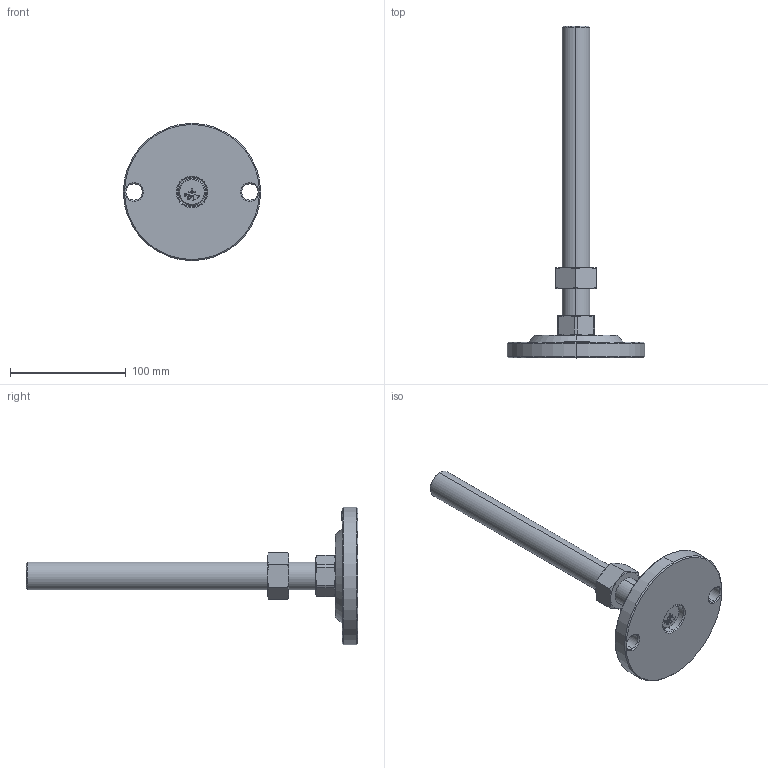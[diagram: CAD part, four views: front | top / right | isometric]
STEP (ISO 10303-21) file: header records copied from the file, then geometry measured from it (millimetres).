
FILE_DESCRIPTION (( 'STEP AP203' ), '1' );
FILE_NAME ('KL-120-24250-P.STEP', '2020-09-10T02:39:07', ( '' ), ( '' ), 'SwSTEP 2.0', 'SolidWorks 2016', '' );
FILE_SCHEMA (( 'CONFIG_CONTROL_DESIGN' ));
Length unit declared in the file: millimetre
Products named in the file (5): KL-120-24250-P; 眻芛蹟邡M24炵蹈_M24X250; 螺丝平底十字带商标M10系列_M10X14; KL-120-0.1 KL120菁釱; 脚垫调节六角螺母M24
Assembly tree (4 placements, depth 2):
  KL-120-24250-P
    KL-120-0.1 KL120菁釱
    眻芛蹟邡M24炵蹈_M24X250
    脚垫调节六角螺母M24
    螺丝平底十字带商标M10系列_M10X14
Bounding box: 118.5 x 286.5 x 118.5 mm (x, y, z)
Volume: 309213.1 mm3; surface area: 57834.7 mm2
Topology: 4 solids, 4 shells, 210 faces, 511 edges, 324 vertices
Faces by surface type: plane 101, cone 52, cylinder 33, bspline 24
Entity records: 8380 total; most frequent: CARTESIAN_POINT 3120, ORIENTED_EDGE 1014, DIRECTION 903, EDGE_CURVE 507, VERTEX_POINT 324, AXIS2_PLACEMENT_3D 307, LINE 289, VECTOR 289
